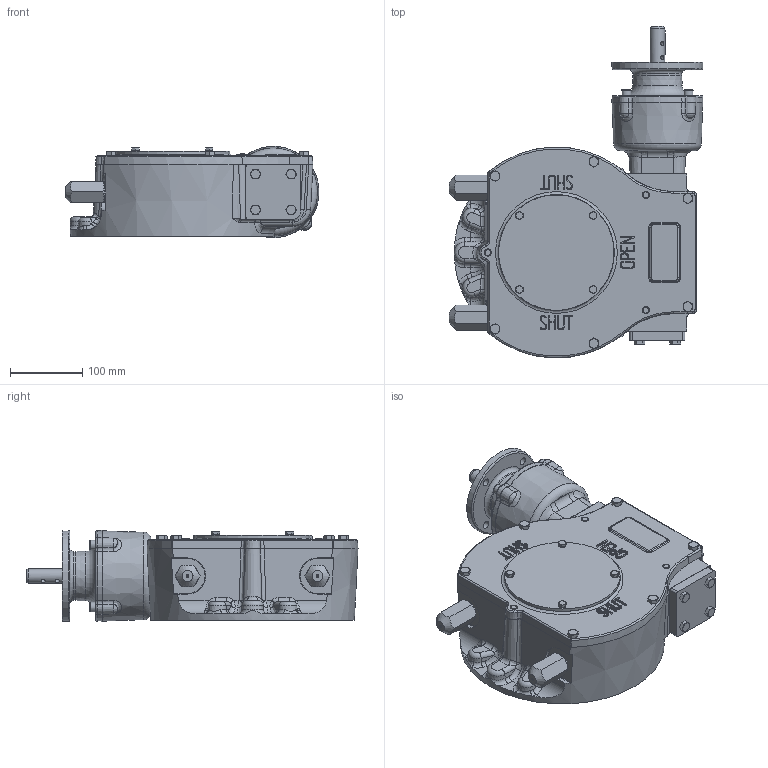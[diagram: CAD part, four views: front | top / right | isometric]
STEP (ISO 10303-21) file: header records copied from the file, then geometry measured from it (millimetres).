
FILE_DESCRIPTION( ( 'Unknown' ), '1' );
FILE_NAME( 'M:/Current Drawings/Internet datasheets/4 - STEP/E3000G-PR6 BU LH.stp', 'Unknown', ( 'Unknown' ), ( 'Unknown' ), 'PSStep 15.0.49', 'Unknown', ' ' );
FILE_SCHEMA( ( 'AUTOMOTIVE_DESIGN { 1 0 10303 214 1 1 1 1 }' ) );
Length unit declared in the file: millimetre
Products named in the file (1): AB3000A04-L
Bounding box: 351.88 x 460.16 x 126.25 mm (x, y, z)
Volume: 6180834.3 mm3; surface area: 804917.9 mm2
Topology: 1 solids, 56 shells, 2519 faces, 6421 edges, 3970 vertices
Faces by surface type: plane 723, cylinder 671, cone 468, bspline 316, torus 227, sphere 84, extrusion 30
Full cylindrical faces by diameter (mm): 4.917 x8, 6 x6, 6.647 x40, 7 x4, 8 x18, 8.376 x4, 8.5 x10, 9 x8, 10 x10, 10.5 x4, 13.27 x4, 14 x4, 17.294 x2, 19 x1, 20 x7, 23 x1, 25 x5, 26 x4, 28 x2, 29 x1, 30 x4, 35 x2, 38 x2, 47 x2, 70 x1, 102 x1, 104.5 x1, 110 x3, 110.25 x1, 125.95 x2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
Entity records: 141414 total; most frequent: CARTESIAN_POINT 66048, ORIENTED_EDGE 11618, DIRECTION 10946, EDGE_CURVE 5809, AXIS2_PLACEMENT_3D 4605, VERTEX_POINT 3806, EDGE_LOOP 2969, FACE_OUTER_BOUND 2743
